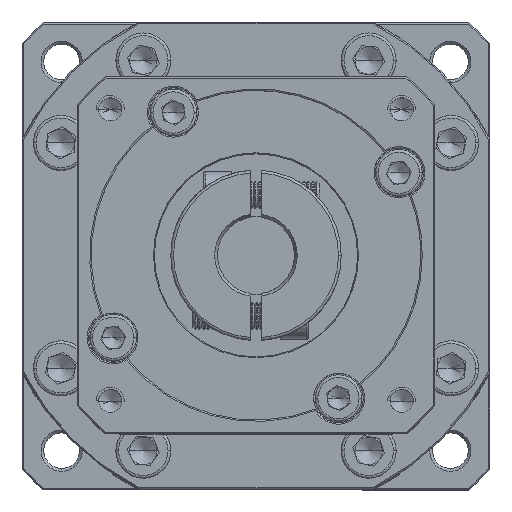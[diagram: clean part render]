
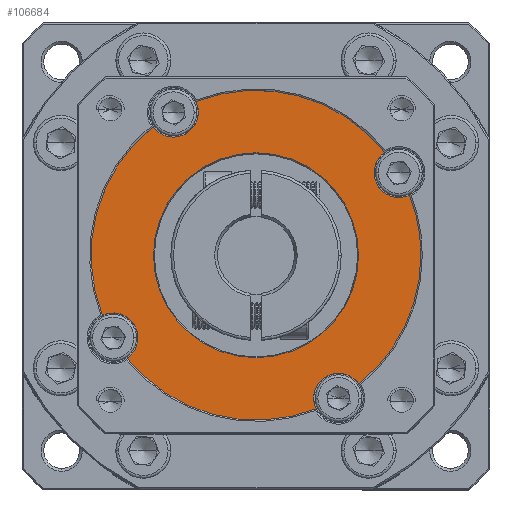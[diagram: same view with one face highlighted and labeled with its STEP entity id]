
A CAD part, top view. The second image highlights one B-rep face of the part: STEP entity #106684.
In plain terms, the highlighted planar face has unit normal (0, 0, 1).
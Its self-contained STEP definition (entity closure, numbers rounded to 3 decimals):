
#1733 = AXIS2_PLACEMENT_3D ( 'NONE', #132276, #16226, #57458 ) ;
#2680 = CARTESIAN_POINT ( 'NONE',  ( -58.789, 41.745, -14.057 ) ) ;
#3126 = DIRECTION ( 'NONE',  ( 1., 0., 0. ) ) ;
#3168 = DIRECTION ( 'NONE',  ( 0., 0., 1. ) ) ;
#5557 = DIRECTION ( 'NONE',  ( 0., 0., 1. ) ) ;
#5941 = EDGE_CURVE ( 'NONE', #59945, #23521, #87173, .T. ) ;
#6069 = CARTESIAN_POINT ( 'NONE',  ( -22.308, 30.764, -14.057 ) ) ;
#6986 = EDGE_CURVE ( 'NONE', #123785, #59945, #111440, .T. ) ;
#7677 = EDGE_CURVE ( 'NONE', #40200, #70795, #122694, .T. ) ;
#9010 = DIRECTION ( 'NONE',  ( 1., 0., 0. ) ) ;
#11296 = EDGE_CURVE ( 'NONE', #40200, #74316, #75182, .T. ) ;
#12965 = AXIS2_PLACEMENT_3D ( 'NONE', #90435, #68076, #100099 ) ;
#13427 = ORIENTED_EDGE ( 'NONE', *, *, #25546, .F. ) ;
#14920 = EDGE_LOOP ( 'NONE', ( #95339, #113435 ) ) ;
#16226 = DIRECTION ( 'NONE',  ( 0., 0., 1. ) ) ;
#16299 = CARTESIAN_POINT ( 'NONE',  ( -32.808, 56.745, -14.057 ) ) ;
#16790 = EDGE_CURVE ( 'NONE', #119132, #69693, #86191, .T. ) ;
#17356 = EDGE_CURVE ( 'NONE', #99931, #69693, #106650, .T. ) ;
#18825 = CARTESIAN_POINT ( 'NONE',  ( -43.753, 84.677, -14.057 ) ) ;
#19420 = CARTESIAN_POINT ( 'NONE',  ( -54.289, 41.745, -14.057 ) ) ;
#19676 = DIRECTION ( 'NONE',  ( 1., 0., 0. ) ) ;
#19780 = DIRECTION ( 'NONE',  ( 1., 0., 0. ) ) ;
#20374 = EDGE_LOOP ( 'NONE', ( #100564, #21386, #135585, #73778, #135209, #27082, #13427, #125089, #121636, #105046, #115714, #104972, #98253 ) ) ;
#21386 = ORIENTED_EDGE ( 'NONE', *, *, #7677, .T. ) ;
#23521 = VERTEX_POINT ( 'NONE', #128414 ) ;
#25372 = DIRECTION ( 'NONE',  ( 1., 0., 0. ) ) ;
#25546 = EDGE_CURVE ( 'NONE', #104898, #23521, #76978, .T. ) ;
#26168 = AXIS2_PLACEMENT_3D ( 'NONE', #47726, #89859, #100408 ) ;
#27082 = ORIENTED_EDGE ( 'NONE', *, *, #5941, .T. ) ;
#34536 = CARTESIAN_POINT ( 'NONE',  ( -32.808, 56.745, -14.057 ) ) ;
#34707 = FACE_BOUND ( 'NONE', #14920, .T. ) ;
#36737 = CARTESIAN_POINT ( 'NONE',  ( -47.808, 82.726, -14.057 ) ) ;
#40200 = VERTEX_POINT ( 'NONE', #106476 ) ;
#40728 = AXIS2_PLACEMENT_3D ( 'NONE', #16299, #100138, #119966 ) ;
#42114 = DIRECTION ( 'NONE',  ( 1., 0., 0. ) ) ;
#47726 = CARTESIAN_POINT ( 'NONE',  ( -32.808, 56.745, -14.057 ) ) ;
#48014 = DIRECTION ( 'NONE',  ( 0., 0., 1. ) ) ;
#53060 = EDGE_CURVE ( 'NONE', #74316, #101475, #83231, .T. ) ;
#53082 = CARTESIAN_POINT ( 'NONE',  ( -21.863, 28.813, -14.057 ) ) ;
#53932 = AXIS2_PLACEMENT_3D ( 'NONE', #104984, #61904, #115566 ) ;
#54255 = AXIS2_PLACEMENT_3D ( 'NONE', #120749, #80323, #121677 ) ;
#54528 = DIRECTION ( 'NONE',  ( 1., 0., 0. ) ) ;
#54982 = CIRCLE ( 'NONE', #79634, 18.644 ) ;
#55448 = CARTESIAN_POINT ( 'NONE',  ( -58.789, 41.745, -14.057 ) ) ;
#57458 = DIRECTION ( 'NONE',  ( 1., 0., 0. ) ) ;
#59945 = VERTEX_POINT ( 'NONE', #66902 ) ;
#60981 = EDGE_CURVE ( 'NONE', #122478, #101475, #109759, .T. ) ;
#61904 = DIRECTION ( 'NONE',  ( 0., 0., 1. ) ) ;
#62171 = DIRECTION ( 'NONE',  ( 0., 0., 1. ) ) ;
#62662 = PLANE ( 'NONE',  #128660 ) ;
#65964 = EDGE_CURVE ( 'NONE', #118253, #70795, #69647, .T. ) ;
#66902 = CARTESIAN_POINT ( 'NONE',  ( -2.808, 56.745, -14.057 ) ) ;
#67468 = FACE_OUTER_BOUND ( 'NONE', #20374, .T. ) ;
#67849 = AXIS2_PLACEMENT_3D ( 'NONE', #92635, #81218, #19780 ) ;
#68076 = DIRECTION ( 'NONE',  ( 0., 0., 1. ) ) ;
#69598 = CIRCLE ( 'NONE', #99002, 18.644 ) ;
#69647 = CIRCLE ( 'NONE', #1733, 4.5 ) ;
#69693 = VERTEX_POINT ( 'NONE', #18825 ) ;
#70795 = VERTEX_POINT ( 'NONE', #53082 ) ;
#71858 = CARTESIAN_POINT ( 'NONE',  ( -32.808, 56.745, -14.057 ) ) ;
#71940 = DIRECTION ( 'NONE',  ( 0., 0., -1. ) ) ;
#73778 = ORIENTED_EDGE ( 'NONE', *, *, #116450, .F. ) ;
#74316 = VERTEX_POINT ( 'NONE', #19420 ) ;
#74629 = CARTESIAN_POINT ( 'NONE',  ( -32.808, 56.745, -14.057 ) ) ;
#75182 = CIRCLE ( 'NONE', #124524, 4.5 ) ;
#76536 = VERTEX_POINT ( 'NONE', #113330 ) ;
#76978 = CIRCLE ( 'NONE', #12965, 4.5 ) ;
#77419 = CIRCLE ( 'NONE', #124994, 4.5 ) ;
#78929 = DIRECTION ( 'NONE',  ( 1., 0., 0. ) ) ;
#79634 = AXIS2_PLACEMENT_3D ( 'NONE', #134822, #71940, #19676 ) ;
#80323 = DIRECTION ( 'NONE',  ( 0., 0., 1. ) ) ;
#81218 = DIRECTION ( 'NONE',  ( 0., 0., 1. ) ) ;
#83216 = AXIS2_PLACEMENT_3D ( 'NONE', #71858, #62171, #9010 ) ;
#83231 = CIRCLE ( 'NONE', #125558, 4.5 ) ;
#85040 = CIRCLE ( 'NONE', #115508, 4.5 ) ;
#85768 = CARTESIAN_POINT ( 'NONE',  ( -60.74, 45.8, -14.057 ) ) ;
#86191 = CIRCLE ( 'NONE', #40728, 30. ) ;
#87173 = CIRCLE ( 'NONE', #83216, 30. ) ;
#88149 = CARTESIAN_POINT ( 'NONE',  ( -17.808, 30.764, -14.057 ) ) ;
#88218 = CARTESIAN_POINT ( 'NONE',  ( -43.308, 82.726, -14.057 ) ) ;
#89859 = DIRECTION ( 'NONE',  ( 0., 0., 1. ) ) ;
#90435 = CARTESIAN_POINT ( 'NONE',  ( -6.827, 71.745, -14.057 ) ) ;
#92635 = CARTESIAN_POINT ( 'NONE',  ( -32.808, 56.745, -14.057 ) ) ;
#95037 = CARTESIAN_POINT ( 'NONE',  ( -51.452, 56.745, -14.057 ) ) ;
#95339 = ORIENTED_EDGE ( 'NONE', *, *, #118132, .T. ) ;
#97848 = DIRECTION ( 'NONE',  ( 0., 0., 1. ) ) ;
#98253 = ORIENTED_EDGE ( 'NONE', *, *, #53060, .F. ) ;
#99002 = AXIS2_PLACEMENT_3D ( 'NONE', #34536, #116644, #107876 ) ;
#99931 = VERTEX_POINT ( 'NONE', #88218 ) ;
#100099 = DIRECTION ( 'NONE',  ( 1., 0., 0. ) ) ;
#100138 = DIRECTION ( 'NONE',  ( 0., 0., 1. ) ) ;
#100408 = DIRECTION ( 'NONE',  ( 1., 0., 0. ) ) ;
#100564 = ORIENTED_EDGE ( 'NONE', *, *, #11296, .F. ) ;
#101475 = VERTEX_POINT ( 'NONE', #85768 ) ;
#102041 = CARTESIAN_POINT ( 'NONE',  ( -32.808, 56.745, -14.057 ) ) ;
#103025 = CARTESIAN_POINT ( 'NONE',  ( -51.525, 80.19, -14.057 ) ) ;
#104898 = VERTEX_POINT ( 'NONE', #108530 ) ;
#104972 = ORIENTED_EDGE ( 'NONE', *, *, #60981, .T. ) ;
#104984 = CARTESIAN_POINT ( 'NONE',  ( -47.808, 82.726, -14.057 ) ) ;
#105046 = ORIENTED_EDGE ( 'NONE', *, *, #17356, .F. ) ;
#106476 = CARTESIAN_POINT ( 'NONE',  ( -56.253, 38.027, -14.057 ) ) ;
#106650 = CIRCLE ( 'NONE', #53932, 4.5 ) ;
#106684 = ADVANCED_FACE ( 'NONE', ( #34707, #67468 ), #62662, .T. ) ;
#107219 = VERTEX_POINT ( 'NONE', #95037 ) ;
#107876 = DIRECTION ( 'NONE',  ( 1., 0., 0. ) ) ;
#108530 = CARTESIAN_POINT ( 'NONE',  ( -11.327, 71.745, -14.057 ) ) ;
#109759 = CIRCLE ( 'NONE', #67849, 30. ) ;
#111440 = CIRCLE ( 'NONE', #26168, 30. ) ;
#113330 = CARTESIAN_POINT ( 'NONE',  ( -14.164, 56.745, -14.057 ) ) ;
#113435 = ORIENTED_EDGE ( 'NONE', *, *, #127537, .T. ) ;
#114844 = EDGE_CURVE ( 'NONE', #122478, #99931, #77419, .T. ) ;
#115508 = AXIS2_PLACEMENT_3D ( 'NONE', #88149, #97848, #25372 ) ;
#115566 = DIRECTION ( 'NONE',  ( 1., 0., 0. ) ) ;
#115714 = ORIENTED_EDGE ( 'NONE', *, *, #114844, .F. ) ;
#116450 = EDGE_CURVE ( 'NONE', #123785, #118253, #85040, .T. ) ;
#116644 = DIRECTION ( 'NONE',  ( 0., 0., -1. ) ) ;
#118132 = EDGE_CURVE ( 'NONE', #76536, #107219, #69598, .T. ) ;
#118253 = VERTEX_POINT ( 'NONE', #6069 ) ;
#118259 = EDGE_CURVE ( 'NONE', #119132, #104898, #133582, .T. ) ;
#118268 = DIRECTION ( 'NONE',  ( 0., 0., 1. ) ) ;
#119132 = VERTEX_POINT ( 'NONE', #123604 ) ;
#119966 = DIRECTION ( 'NONE',  ( 1., 0., 0. ) ) ;
#120749 = CARTESIAN_POINT ( 'NONE',  ( -6.827, 71.745, -14.057 ) ) ;
#121636 = ORIENTED_EDGE ( 'NONE', *, *, #16790, .T. ) ;
#121677 = DIRECTION ( 'NONE',  ( 1., 0., 0. ) ) ;
#122478 = VERTEX_POINT ( 'NONE', #103025 ) ;
#122694 = CIRCLE ( 'NONE', #130946, 30. ) ;
#123604 = CARTESIAN_POINT ( 'NONE',  ( -9.363, 75.462, -14.057 ) ) ;
#123785 = VERTEX_POINT ( 'NONE', #131543 ) ;
#124524 = AXIS2_PLACEMENT_3D ( 'NONE', #55448, #3168, #54528 ) ;
#124994 = AXIS2_PLACEMENT_3D ( 'NONE', #36737, #5557, #78929 ) ;
#125089 = ORIENTED_EDGE ( 'NONE', *, *, #118259, .F. ) ;
#125558 = AXIS2_PLACEMENT_3D ( 'NONE', #2680, #118268, #3126 ) ;
#127537 = EDGE_CURVE ( 'NONE', #107219, #76536, #54982, .T. ) ;
#128414 = CARTESIAN_POINT ( 'NONE',  ( -4.876, 67.69, -14.057 ) ) ;
#128660 = AXIS2_PLACEMENT_3D ( 'NONE', #74629, #136127, #42114 ) ;
#130946 = AXIS2_PLACEMENT_3D ( 'NONE', #102041, #48014, #132919 ) ;
#131543 = CARTESIAN_POINT ( 'NONE',  ( -14.09, 33.3, -14.057 ) ) ;
#132276 = CARTESIAN_POINT ( 'NONE',  ( -17.808, 30.764, -14.057 ) ) ;
#132919 = DIRECTION ( 'NONE',  ( 1., 0., 0. ) ) ;
#133582 = CIRCLE ( 'NONE', #54255, 4.5 ) ;
#134822 = CARTESIAN_POINT ( 'NONE',  ( -32.808, 56.745, -14.057 ) ) ;
#135209 = ORIENTED_EDGE ( 'NONE', *, *, #6986, .T. ) ;
#135585 = ORIENTED_EDGE ( 'NONE', *, *, #65964, .F. ) ;
#136127 = DIRECTION ( 'NONE',  ( 0., 0., 1. ) ) ;
